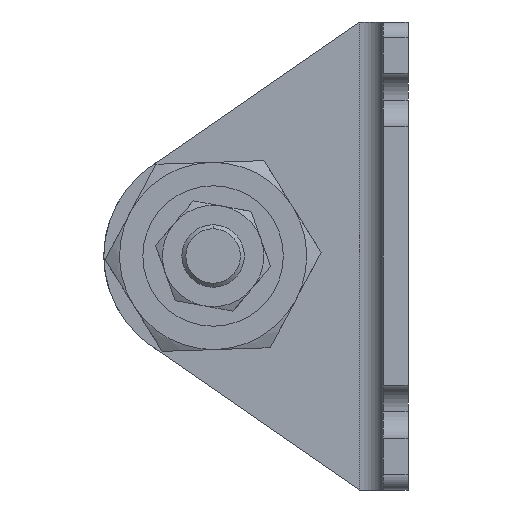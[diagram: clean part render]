
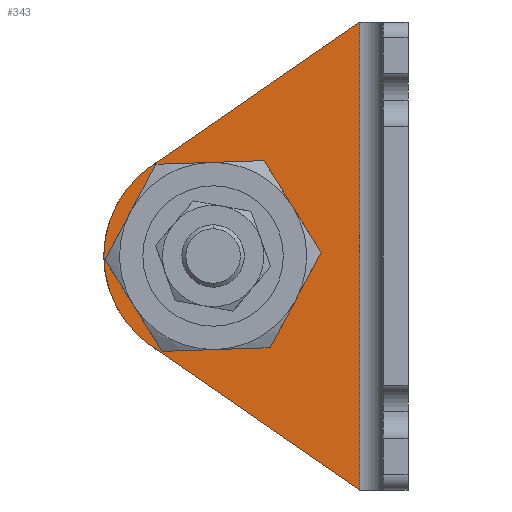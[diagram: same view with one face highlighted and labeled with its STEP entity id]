
A CAD part, left-side view. The second image highlights one B-rep face of the part: STEP entity #343.
In plain terms, the highlighted planar face has unit normal (-1, 0, 0) as drawn and (1, 0, 0) by its records, which use the part's own axes.
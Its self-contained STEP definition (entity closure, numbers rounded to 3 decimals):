
#59 = VERTEX_POINT ( 'NONE', #1767 ) ;
#112 = CARTESIAN_POINT ( 'NONE',  ( 3.2, 32.226, -17.976 ) ) ;
#115 = CIRCLE ( 'NONE', #3503, 14. ) ;
#173 = PLANE ( 'NONE',  #2827 ) ;
#257 = AXIS2_PLACEMENT_3D ( 'NONE', #2579, #973, #4118 ) ;
#326 = ORIENTED_EDGE ( 'NONE', *, *, #1476, .T. ) ;
#327 = CARTESIAN_POINT ( 'NONE',  ( 3.2, 25., -30. ) ) ;
#340 = ORIENTED_EDGE ( 'NONE', *, *, #1984, .F. ) ;
#343 = ADVANCED_FACE ( 'NONE', ( #3930, #374 ), #173, .T. ) ;
#374 = FACE_OUTER_BOUND ( 'NONE', #2659, .T. ) ;
#473 = AXIS2_PLACEMENT_3D ( 'NONE', #3794, #1979, #2200 ) ;
#612 = VERTEX_POINT ( 'NONE', #2508 ) ;
#667 = VERTEX_POINT ( 'NONE', #3490 ) ;
#759 = EDGE_CURVE ( 'NONE', #2269, #612, #1397, .T. ) ;
#881 = EDGE_CURVE ( 'NONE', #1408, #3866, #1391, .T. ) ;
#973 = DIRECTION ( 'NONE',  ( 1., 0., 0. ) ) ;
#1112 = VECTOR ( 'NONE', #3293, 1000. ) ;
#1340 = DIRECTION ( 'NONE',  ( 0., 0.823, 0.568 ) ) ;
#1391 = LINE ( 'NONE', #112, #1112 ) ;
#1397 = CIRCLE ( 'NONE', #257, 9.5 ) ;
#1408 = VERTEX_POINT ( 'NONE', #3747 ) ;
#1432 = AXIS2_PLACEMENT_3D ( 'NONE', #327, #2801, #2208 ) ;
#1461 = ORIENTED_EDGE ( 'NONE', *, *, #2874, .T. ) ;
#1476 = EDGE_CURVE ( 'NONE', #667, #59, #2267, .T. ) ;
#1584 = DIRECTION ( 'NONE',  ( 0., 1., 0. ) ) ;
#1767 = CARTESIAN_POINT ( 'NONE',  ( 3.2, 32.956, -41.519 ) ) ;
#1962 = LINE ( 'NONE', #3914, #3213 ) ;
#1979 = DIRECTION ( 'NONE',  ( 1., 0., 0. ) ) ;
#1984 = EDGE_CURVE ( 'NONE', #612, #2269, #2516, .T. ) ;
#2023 = ORIENTED_EDGE ( 'NONE', *, *, #881, .F. ) ;
#2050 = CARTESIAN_POINT ( 'NONE',  ( 3.2, 3.2, -60. ) ) ;
#2084 = ORIENTED_EDGE ( 'NONE', *, *, #3202, .T. ) ;
#2200 = DIRECTION ( 'NONE',  ( 0., 1., 0. ) ) ;
#2204 = CARTESIAN_POINT ( 'NONE',  ( 3.2, 4.169, -61.403 ) ) ;
#2208 = DIRECTION ( 'NONE',  ( 0., 1., 0. ) ) ;
#2267 = LINE ( 'NONE', #2204, #2638 ) ;
#2269 = VERTEX_POINT ( 'NONE', #2405 ) ;
#2295 = EDGE_CURVE ( 'NONE', #3676, #3866, #2908, .T. ) ;
#2311 = DIRECTION ( 'NONE',  ( 0., 1., 0. ) ) ;
#2405 = CARTESIAN_POINT ( 'NONE',  ( 3.2, 34.5, -30. ) ) ;
#2505 = DIRECTION ( 'NONE',  ( 1., 0., 0. ) ) ;
#2508 = CARTESIAN_POINT ( 'NONE',  ( 3.2, 15.5, -30. ) ) ;
#2516 = CIRCLE ( 'NONE', #473, 9.5 ) ;
#2570 = DIRECTION ( 'NONE',  ( 0., 0., -1. ) ) ;
#2579 = CARTESIAN_POINT ( 'NONE',  ( 3.2, 25., -30. ) ) ;
#2638 = VECTOR ( 'NONE', #1340, 1000. ) ;
#2650 = DIRECTION ( 'NONE',  ( 1., 0., 0. ) ) ;
#2659 = EDGE_LOOP ( 'NONE', ( #326, #2084, #2682, #2023, #1461 ) ) ;
#2682 = ORIENTED_EDGE ( 'NONE', *, *, #2295, .T. ) ;
#2785 = CARTESIAN_POINT ( 'NONE',  ( 3.2, 32.956, -18.481 ) ) ;
#2801 = DIRECTION ( 'NONE',  ( 1., 0., 0. ) ) ;
#2827 = AXIS2_PLACEMENT_3D ( 'NONE', #2050, #2650, #2311 ) ;
#2874 = EDGE_CURVE ( 'NONE', #1408, #667, #1962, .T. ) ;
#2908 = CIRCLE ( 'NONE', #1432, 14. ) ;
#2913 = CARTESIAN_POINT ( 'NONE',  ( 3.2, 39., -30. ) ) ;
#2951 = ORIENTED_EDGE ( 'NONE', *, *, #759, .F. ) ;
#3202 = EDGE_CURVE ( 'NONE', #59, #3676, #115, .T. ) ;
#3213 = VECTOR ( 'NONE', #2570, 1000. ) ;
#3293 = DIRECTION ( 'NONE',  ( 0., 0.823, -0.568 ) ) ;
#3486 = CARTESIAN_POINT ( 'NONE',  ( 3.2, 25., -30. ) ) ;
#3490 = CARTESIAN_POINT ( 'NONE',  ( 3.2, 6.2, -60. ) ) ;
#3503 = AXIS2_PLACEMENT_3D ( 'NONE', #3486, #2505, #1584 ) ;
#3676 = VERTEX_POINT ( 'NONE', #2913 ) ;
#3747 = CARTESIAN_POINT ( 'NONE',  ( 3.2, 6.2, 0. ) ) ;
#3794 = CARTESIAN_POINT ( 'NONE',  ( 3.2, 25., -30. ) ) ;
#3866 = VERTEX_POINT ( 'NONE', #2785 ) ;
#3914 = CARTESIAN_POINT ( 'NONE',  ( 3.2, 6.2, -60. ) ) ;
#3930 = FACE_BOUND ( 'NONE', #4137, .T. ) ;
#4118 = DIRECTION ( 'NONE',  ( 0., 1., 0. ) ) ;
#4137 = EDGE_LOOP ( 'NONE', ( #2951, #340 ) ) ;
